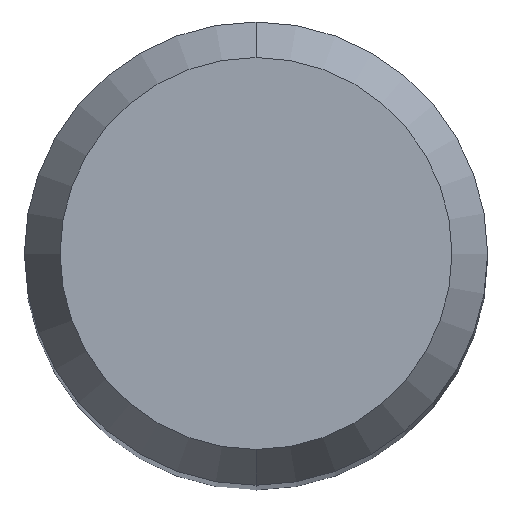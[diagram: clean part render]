
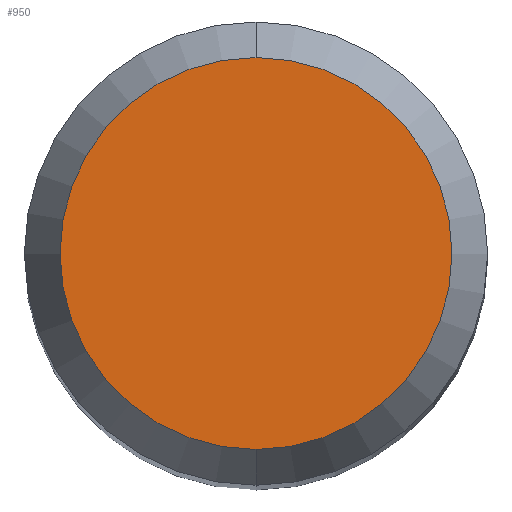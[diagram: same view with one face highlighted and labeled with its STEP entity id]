
A CAD part, top view. The second image highlights one B-rep face of the part: STEP entity #950.
In plain terms, the highlighted planar face has unit normal (0, 0, 1).
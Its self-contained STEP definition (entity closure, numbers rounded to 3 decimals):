
#950=ADVANCED_FACE('',(#2389),#2390,.T.);
#1132=VERTEX_POINT('',#2596);
#1402=VERTEX_POINT('',#2895);
#1482=EDGE_CURVE('',#1402,#1132,#2980,.T.);
#1610=EDGE_CURVE('',#1132,#1402,#3118,.T.);
#2389=FACE_OUTER_BOUND('',#5975,.T.);
#2390=PLANE('',#5976);
#2596=CARTESIAN_POINT('',(0.,-2.538,0.0));
#2895=CARTESIAN_POINT('',(0.0,2.538,0.0));
#2980=CIRCLE('',#12010,2.538);
#3118=CIRCLE('',#13063,2.538);
#5975=EDGE_LOOP('',(#18356,#18357));
#5976=AXIS2_PLACEMENT_3D('',#18358,#18359,#18360);
#12010=AXIS2_PLACEMENT_3D('',#18993,#18994,#18995);
#13063=AXIS2_PLACEMENT_3D('',#19151,#19152,#19153);
#18356=ORIENTED_EDGE('',*,*,#1482,.F.);
#18357=ORIENTED_EDGE('',*,*,#1610,.F.);
#18358=CARTESIAN_POINT('',(0.0,1.269,0.0));
#18359=DIRECTION('',(-0.0,0.0,1.0));
#18360=DIRECTION('',(0.0,-1.0,0.0));
#18993=CARTESIAN_POINT('',(0.0,0.0,0.0));
#18994=DIRECTION('',(0.0,0.0,-1.0));
#18995=DIRECTION('',(0.0,1.0,0.0));
#19151=CARTESIAN_POINT('',(0.0,0.0,0.0));
#19152=DIRECTION('',(0.0,0.0,-1.0));
#19153=DIRECTION('',(0.0,1.0,0.0));
